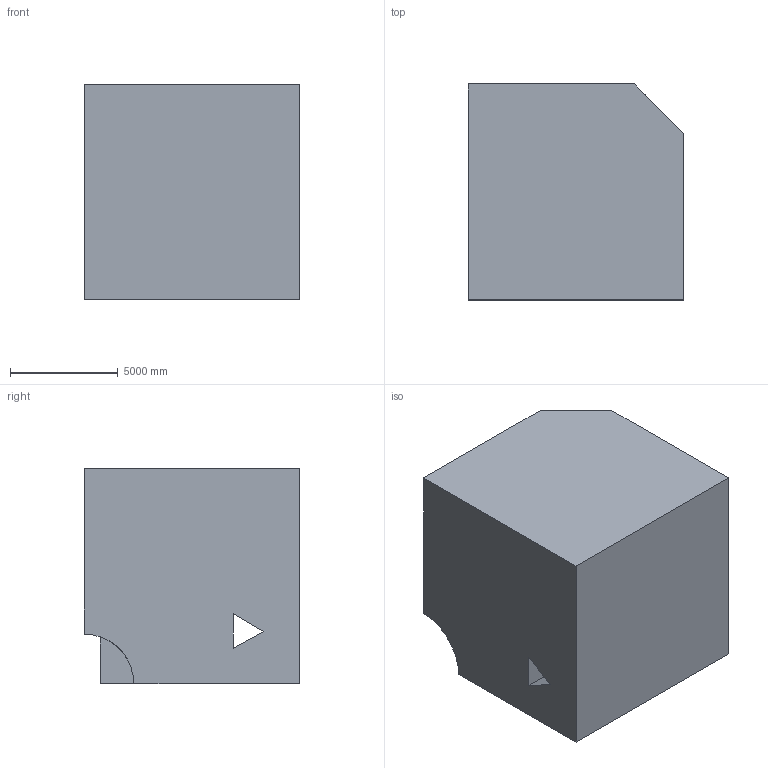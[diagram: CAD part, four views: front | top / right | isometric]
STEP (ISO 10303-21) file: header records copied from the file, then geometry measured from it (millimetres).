
FILE_DESCRIPTION (( 'STEP AP203' ), '1' );
FILE_NAME ('251.STEP', '2022-09-07T12:27:04', ( 'user' ), ( '' ), 'SwSTEP 2.0', 'SolidWorks 2021', '' );
FILE_SCHEMA (( 'CONFIG_CONTROL_DESIGN' ));
Length unit declared in the file: centimetre
Products named in the file (1): 251
Bounding box: 10000 x 10000 x 10000 mm (x, y, z)
Volume: 928020492617.2 mm3; surface area: 616445238.2 mm2
Topology: 1 solids, 1 shells, 12 faces, 30 edges, 20 vertices
Faces by surface type: plane 11, cylinder 1
Entity records: 437 total; most frequent: CARTESIAN_POINT 66, ORIENTED_EDGE 60, DIRECTION 57, EDGE_CURVE 30, VECTOR 27, LINE 27, VERTEX_POINT 20, AXIS2_PLACEMENT_3D 15
